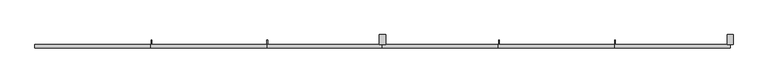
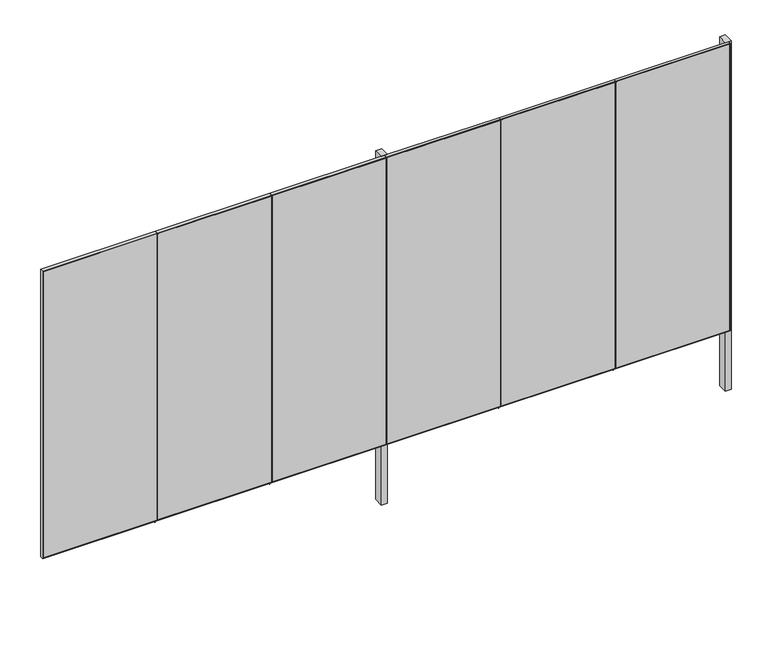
"""IFC4 building model written with IfcOpenShell, lengths in millimetres: furniture geometry, H105 Reja 6 módulos : H105.1 Reja 6 módulos 690x310."""

from ifc_helpers import new_model, si_unit, frame, origin, place, context, project, spatial, polyline, outline, extrude, source, transform, mapped, element, save


def furniture_74885e08(model_context):
    return source(origin(), model_context, "Body", "SweptSolid", [
        extrude(outline(polyline([(4674.7003264, -468.0), (4674.7003264, -568.0), (4614.7003264, -568.0), (4614.7003264, -468.0), (4674.7003264, -468.0)])), frame((0.0, 0.0, -600.0), z_axis=(0.0, 0.0, 1.0), x_axis=(1.0, 0.0, 0.0)), (0.0, 0.0, 1.0), 3700.0),
        extrude(outline(polyline([(1224.7003264, -468.0), (1224.7003264, -568.0), (1164.7003264, -568.0), (1164.7003264, -468.0), (1224.7003264, -468.0)])), frame((0.0, 0.0, -600.0), z_axis=(0.0, 0.0, 1.0), x_axis=(1.0, 0.0, 0.0)), (0.0, 0.0, 1.0), 3700.0),
        extrude(outline(polyline([(3100.0, 3494.7003264), (3100.0, 2344.7003264), (50.0, 2344.7003264), (50.0, 3494.7003264), (3100.0, 3494.7003264)]), holes=[polyline([(3093.0, 3491.2003264), (57.0, 3491.2003264), (57.0, 2348.2003264), (3093.0, 2348.2003264), (3093.0, 3491.2003264)])]), frame((0.0, -600.0, 0.0), z_axis=(0.0, 1.0, 0.0), x_axis=(0.0, 0.0, 1.0)), (0.0, 0.0, 1.0), 32.0),
        extrude(outline(polyline([(3491.2003264, -600.0), (2348.2003264, -600.0), (2348.2003264, -597.0), (3491.2003264, -597.0), (3491.2003264, -600.0)])), frame((0.0, 0.0, 57.0), z_axis=(0.0, 0.0, 1.0), x_axis=(1.0, 0.0, 0.0)), (0.0, 0.0, 1.0), 3036.0),
        extrude(outline(polyline([(3100.0, 2344.7003264), (3100.0, 1194.7003264), (50.0, 1194.7003264), (50.0, 2344.7003264), (3100.0, 2344.7003264)]), holes=[polyline([(3093.0, 2341.2003264), (57.0, 2341.2003264), (57.0, 1198.2003264), (3093.0, 1198.2003264), (3093.0, 2341.2003264)])]), frame((0.0, -600.0, 0.0), z_axis=(0.0, 1.0, 0.0), x_axis=(0.0, 0.0, 1.0)), (0.0, 0.0, 1.0), 32.0),
        extrude(outline(polyline([(2341.2003264, -600.0), (1198.2003264, -600.0), (1198.2003264, -597.0), (2341.2003264, -597.0), (2341.2003264, -600.0)])), frame((0.0, 0.0, 57.0), z_axis=(0.0, 0.0, 1.0), x_axis=(1.0, 0.0, 0.0)), (0.0, 0.0, 1.0), 3036.0),
        extrude(outline(polyline([(3100.0, 44.7003264), (3100.0, -1105.2996736), (50.0, -1105.2996736), (50.0, 44.7003264), (3100.0, 44.7003264)]), holes=[polyline([(3093.0, 41.2003264), (57.0, 41.2003264), (57.0, -1101.7996736), (3093.0, -1101.7996736), (3093.0, 41.2003264)])]), frame((0.0, -600.0, 0.0), z_axis=(0.0, 1.0, 0.0), x_axis=(0.0, 0.0, 1.0)), (0.0, 0.0, 1.0), 32.0),
        extrude(outline(polyline([(4637.7003264, -600.0), (3498.2003264, -600.0), (3498.2003264, -597.0), (4637.7003264, -597.0), (4637.7003264, -600.0)])), frame((0.0, 0.0, 57.0), z_axis=(0.0, 0.0, 1.0), x_axis=(1.0, 0.0, 0.0)), (0.0, 0.0, 1.0), 3036.0),
        extrude(outline(polyline([(3100.0, 4644.7003264), (3100.0, 3494.7003264), (50.0, 3494.7003264), (50.0, 4644.7003264), (3100.0, 4644.7003264)]), holes=[polyline([(3093.0, 4637.7003264), (57.0, 4637.7003264), (57.0, 3498.2003264), (3093.0, 3498.2003264), (3093.0, 4637.7003264)])]), frame((0.0, -600.0, 0.0), z_axis=(0.0, 1.0, 0.0), x_axis=(0.0, 0.0, 1.0)), (0.0, 0.0, 1.0), 32.0),
        extrude(outline(polyline([(1191.2003264, -600.0), (48.2003264, -600.0), (48.2003264, -597.0), (1191.2003264, -597.0), (1191.2003264, -600.0)])), frame((0.0, 0.0, 57.0), z_axis=(0.0, 0.0, 1.0), x_axis=(1.0, 0.0, 0.0)), (0.0, 0.0, 1.0), 3036.0),
        extrude(outline(polyline([(3100.0, 1194.7003264), (3100.0, 44.7003264), (50.0, 44.7003264), (50.0, 1194.7003264), (3100.0, 1194.7003264)]), holes=[polyline([(3093.0, 1191.2003264), (57.0, 1191.2003264), (57.0, 48.2003264), (3093.0, 48.2003264), (3093.0, 1191.2003264)])]), frame((0.0, -600.0, 0.0), z_axis=(0.0, 1.0, 0.0), x_axis=(0.0, 0.0, 1.0)), (0.0, 0.0, 1.0), 32.0),
        extrude(outline(polyline([(41.2003264, -600.0), (-1101.7996736, -600.0), (-1101.7996736, -597.0), (41.2003264, -597.0), (41.2003264, -600.0)])), frame((0.0, 0.0, 57.0), z_axis=(0.0, 0.0, 1.0), x_axis=(1.0, 0.0, 0.0)), (0.0, 0.0, 1.0), 3036.0),
        extrude(outline(polyline([(-1108.7996736, -600.0), (-2248.2996736, -600.0), (-2248.2996736, -597.0), (-1108.7996736, -597.0), (-1108.7996736, -600.0)])), frame((0.0, 0.0, 57.0), z_axis=(0.0, 0.0, 1.0), x_axis=(1.0, 0.0, 0.0)), (0.0, 0.0, 1.0), 3036.0),
        extrude(outline(polyline([(3100.0, -1105.2996736), (3100.0, -2255.2996736), (50.0, -2255.2996736), (50.0, -1105.2996736), (3100.0, -1105.2996736)]), holes=[polyline([(3093.0, -1108.7996736), (57.0, -1108.7996736), (57.0, -2248.2996736), (3093.0, -2248.2996736), (3093.0, -1108.7996736)])]), frame((0.0, -600.0, 0.0), z_axis=(0.0, 1.0, 0.0), x_axis=(0.0, 0.0, 1.0)), (0.0, 0.0, 1.0), 32.0),
        extrude(outline(polyline([(-522.0, 82.0), (-522.0, 0.0), (-547.0, 0.0), (-547.0, 57.0), (-597.0, 57.0), (-597.0, 82.0), (-522.0, 82.0)])), frame((2348.2003264, 0.0, 0.0), z_axis=(1.0, 0.0, 0.0), x_axis=(0.0, 1.0, 0.0)), (0.0, 0.0, 1.0), 7.0),
        extrude(outline(polyline([(-522.0, 82.0), (-522.0, 0.0), (-547.0, 0.0), (-547.0, 57.0), (-597.0, 57.0), (-597.0, 82.0), (-522.0, 82.0)])), frame((3498.2003264, 0.0, 0.0), z_axis=(1.0, 0.0, 0.0), x_axis=(0.0, 1.0, 0.0)), (0.0, 0.0, 1.0), 7.0),
        extrude(outline(polyline([(-522.0, 82.0), (-522.0, 0.0), (-547.0, 0.0), (-547.0, 57.0), (-597.0, 57.0), (-597.0, 82.0), (-522.0, 82.0)])), frame((-1101.7996736, 0.0, 0.0), z_axis=(1.0, 0.0, 0.0), x_axis=(0.0, 1.0, 0.0)), (0.0, 0.0, 1.0), 7.0),
        extrude(outline(polyline([(-522.0, 82.0), (-522.0, 0.0), (-547.0, 0.0), (-547.0, 57.0), (-597.0, 57.0), (-597.0, 82.0), (-522.0, 82.0)])), frame((48.2003264, 0.0, 0.0), z_axis=(1.0, 0.0, 0.0), x_axis=(0.0, 1.0, 0.0)), (0.0, 0.0, 1.0), 7.0),
    ])


if __name__ == "__main__":
    model = new_model("IFC4")
    model_context = context("Model", 3, world=origin())
    ifc_project = project(units=[si_unit("LENGTHUNIT", "METRE", prefix="MILLI")], contexts=[model_context])
    site = spatial("IfcSite", under=ifc_project)
    building = spatial("IfcBuilding", under=site)
    placement = place(None, origin())
    furniture_shape = furniture_74885e08(model_context)
    element("IfcFurniture", 1, ObjectType="H105 Reja 6 módulos : H105.1 Reja 6 módulos 690x310", at=placement, inside=building, context=model_context, shape_type="MappedRepresentation", body=[
        mapped(furniture_shape, transform((0.0, 0.0, 0.0), x_axis=(1.0, 0.0, 0.0), y_axis=(0.0, 1.0, 0.0), z_axis=(0.0, 0.0, 1.0))),
    ])
    save(model, "model.ifc")
